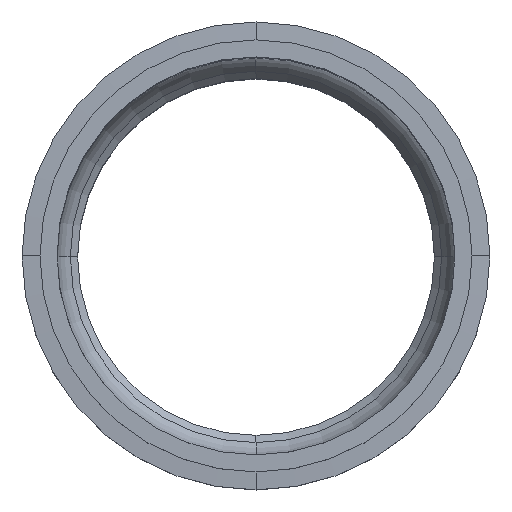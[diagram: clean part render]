
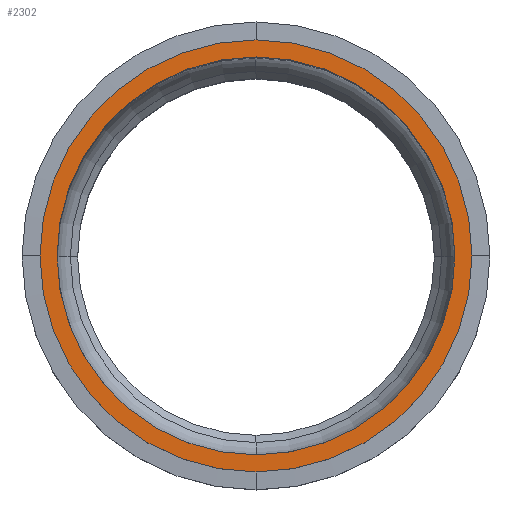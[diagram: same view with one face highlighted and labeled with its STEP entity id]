
A CAD part, top view. The second image highlights one B-rep face of the part: STEP entity #2302.
In plain terms, the highlighted planar face has unit normal (0, 0, 1).
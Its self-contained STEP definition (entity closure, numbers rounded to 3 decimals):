
#175=FACE_BOUND('',#383,.T.);
#177=PLANE('',#2474);
#228=FACE_OUTER_BOUND('',#382,.T.);
#382=EDGE_LOOP('',(#1474,#1475,#1476,#1477));
#383=EDGE_LOOP('',(#1478,#1479,#1480,#1481));
#534=CIRCLE('',#2460,45.5);
#535=CIRCLE('',#2462,45.5);
#541=CIRCLE('',#2473,45.5);
#542=CIRCLE('',#2475,49.4);
#543=CIRCLE('',#2476,49.4);
#544=CIRCLE('',#2477,49.4);
#545=CIRCLE('',#2478,49.4);
#546=CIRCLE('',#2479,45.5);
#914=VERTEX_POINT('',#3310);
#915=VERTEX_POINT('',#3312);
#916=VERTEX_POINT('',#3316);
#921=VERTEX_POINT('',#3337);
#922=VERTEX_POINT('',#3341);
#923=VERTEX_POINT('',#3342);
#924=VERTEX_POINT('',#3344);
#925=VERTEX_POINT('',#3346);
#1105=EDGE_CURVE('',#915,#914,#534,.T.);
#1107=EDGE_CURVE('',#915,#916,#535,.T.);
#1119=EDGE_CURVE('',#921,#914,#541,.T.);
#1120=EDGE_CURVE('',#922,#923,#542,.T.);
#1121=EDGE_CURVE('',#924,#922,#543,.T.);
#1122=EDGE_CURVE('',#925,#924,#544,.T.);
#1123=EDGE_CURVE('',#923,#925,#545,.T.);
#1124=EDGE_CURVE('',#921,#916,#546,.T.);
#1474=ORIENTED_EDGE('',*,*,#1120,.F.);
#1475=ORIENTED_EDGE('',*,*,#1121,.F.);
#1476=ORIENTED_EDGE('',*,*,#1122,.F.);
#1477=ORIENTED_EDGE('',*,*,#1123,.F.);
#1478=ORIENTED_EDGE('',*,*,#1107,.F.);
#1479=ORIENTED_EDGE('',*,*,#1105,.T.);
#1480=ORIENTED_EDGE('',*,*,#1119,.F.);
#1481=ORIENTED_EDGE('',*,*,#1124,.T.);
#2302=ADVANCED_FACE('',(#228,#175),#177,.T.);
#2460=AXIS2_PLACEMENT_3D('',#3313,#2720,#2721);
#2462=AXIS2_PLACEMENT_3D('',#3317,#2725,#2726);
#2473=AXIS2_PLACEMENT_3D('',#3339,#2753,#2754);
#2474=AXIS2_PLACEMENT_3D('',#3340,#2755,#2756);
#2475=AXIS2_PLACEMENT_3D('',#3343,#2757,#2758);
#2476=AXIS2_PLACEMENT_3D('',#3345,#2759,#2760);
#2477=AXIS2_PLACEMENT_3D('',#3347,#2761,#2762);
#2478=AXIS2_PLACEMENT_3D('',#3348,#2763,#2764);
#2479=AXIS2_PLACEMENT_3D('',#3349,#2765,#2766);
#2720=DIRECTION('center_axis',(0.,0.,
-1.));
#2721=DIRECTION('ref_axis',(0.,-1.,0.));
#2725=DIRECTION('center_axis',(0.,0.,
1.));
#2726=DIRECTION('ref_axis',(0.,-1.,0.));
#2753=DIRECTION('center_axis',(0.,0.,
1.));
#2754=DIRECTION('ref_axis',(0.,1.,0.));
#2755=DIRECTION('center_axis',(0.,0.,
1.));
#2756=DIRECTION('ref_axis',(0.,1.,0.));
#2757=DIRECTION('center_axis',(0.,0.,
-1.));
#2758=DIRECTION('ref_axis',(0.,-1.,0.));
#2759=DIRECTION('center_axis',(0.,0.,
-1.));
#2760=DIRECTION('ref_axis',(0.,1.,0.));
#2761=DIRECTION('center_axis',(0.,0.,
-1.));
#2762=DIRECTION('ref_axis',(0.,1.,0.));
#2763=DIRECTION('center_axis',(0.,0.,
-1.));
#2764=DIRECTION('ref_axis',(0.,-1.,0.));
#2765=DIRECTION('center_axis',(0.,0.,
-1.));
#2766=DIRECTION('ref_axis',(0.,1.,0.));
#3310=CARTESIAN_POINT('',(-45.5,0.,0.));
#3312=CARTESIAN_POINT('',(0.,-45.5,0.));
#3313=CARTESIAN_POINT('Origin',(0.,0.,
0.));
#3316=CARTESIAN_POINT('',(45.5,0.,0.));
#3317=CARTESIAN_POINT('Origin',(0.,0.,
0.));
#3337=CARTESIAN_POINT('',(0.,45.5,0.));
#3339=CARTESIAN_POINT('Origin',(0.,0.,
0.));
#3340=CARTESIAN_POINT('Origin',(49.4,-49.4,0.));
#3341=CARTESIAN_POINT('',(49.4,0.,0.));
#3342=CARTESIAN_POINT('',(0.,-49.4,0.));
#3343=CARTESIAN_POINT('Origin',(0.,0.,
0.));
#3344=CARTESIAN_POINT('',(0.,49.4,0.));
#3345=CARTESIAN_POINT('Origin',(0.,0.,
0.));
#3346=CARTESIAN_POINT('',(-49.4,0.,0.));
#3347=CARTESIAN_POINT('Origin',(0.,0.,
0.));
#3348=CARTESIAN_POINT('Origin',(0.,0.,
0.));
#3349=CARTESIAN_POINT('Origin',(0.,0.,0.));
